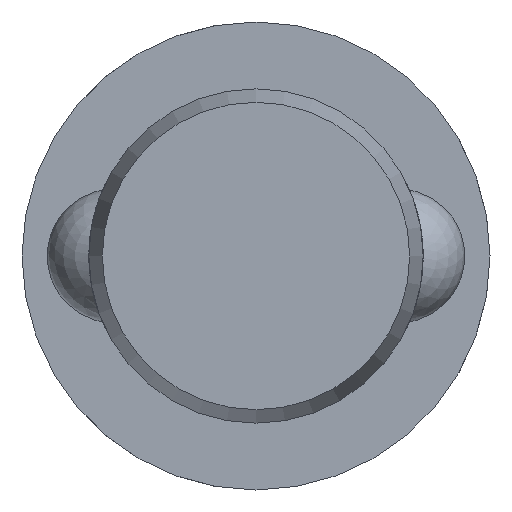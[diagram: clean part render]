
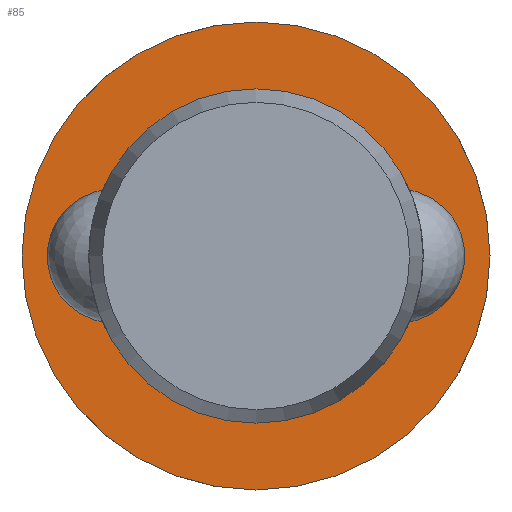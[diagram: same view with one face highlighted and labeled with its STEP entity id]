
A CAD part, left-side view. The second image highlights one B-rep face of the part: STEP entity #85.
In plain terms, the highlighted planar face has unit normal (-1, 0, 0).
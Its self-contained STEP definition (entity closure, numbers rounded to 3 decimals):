
#85 = ADVANCED_FACE( '', ( #131, #132 ), #133, .F. );
#131 = FACE_OUTER_BOUND( '', #204, .T. );
#132 = FACE_BOUND( '', #205, .T. );
#133 = PLANE( '', #206 );
#204 = EDGE_LOOP( '', ( #322 ) );
#205 = EDGE_LOOP( '', ( #323 ) );
#206 = AXIS2_PLACEMENT_3D( '', #324, #325, #326 );
#322 = ORIENTED_EDGE( '', *, *, #470, .F. );
#323 = ORIENTED_EDGE( '', *, *, #467, .T. );
#324 = CARTESIAN_POINT( '', ( 100.5, 10., 0. ) );
#325 = DIRECTION( '', ( 1., 0., 0. ) );
#326 = DIRECTION( '', ( 0., 0., -1. ) );
#467 = EDGE_CURVE( '', #541, #541, #542, .T. );
#470 = EDGE_CURVE( '', #547, #547, #548, .T. );
#541 = VERTEX_POINT( '', #777 );
#542 = CIRCLE( '', #778, 10. );
#547 = VERTEX_POINT( '', #909 );
#548 = CIRCLE( '', #910, 14. );
#777 = CARTESIAN_POINT( '', ( 100.5, 0., -10. ) );
#778 = AXIS2_PLACEMENT_3D( '', #989, #990, #991 );
#909 = CARTESIAN_POINT( '', ( 100.5, 0., -14. ) );
#910 = AXIS2_PLACEMENT_3D( '', #992, #993, #994 );
#989 = CARTESIAN_POINT( '', ( 100.5, 0., 0. ) );
#990 = DIRECTION( '', ( 1., 0., 0. ) );
#991 = DIRECTION( '', ( 0., 0., -1. ) );
#992 = CARTESIAN_POINT( '', ( 100.5, 0., 0. ) );
#993 = DIRECTION( '', ( 1., 0., 0. ) );
#994 = DIRECTION( '', ( 0., 0., -1. ) );
